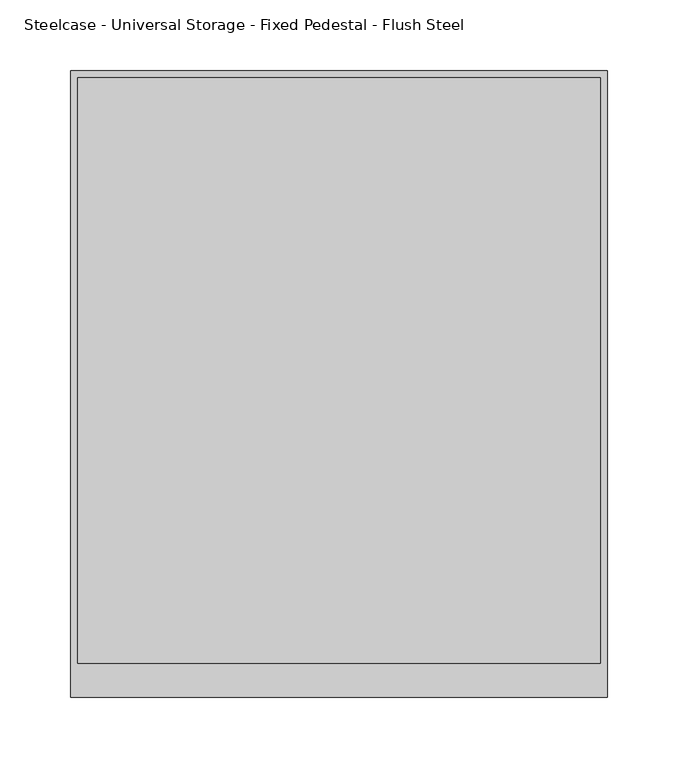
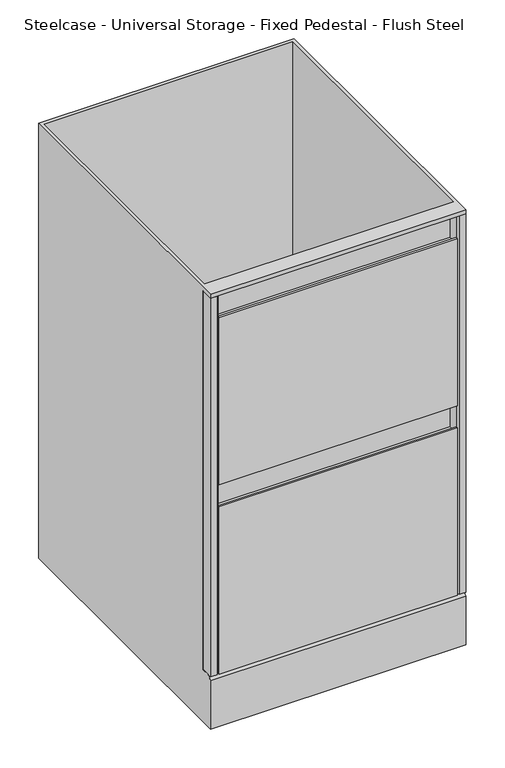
"""IFC4 building model written with IfcOpenShell, lengths in millimetres: furniture geometry, Steelcase - Universal Storage - Fixed Pedestal - Flush Steel : 2 File - 27H x 17 1/2D."""

from ifc_helpers import new_model, si_unit, frame, origin, place, context, project, spatial, polyline, outline, extrude, faceted_brep, source, transform, mapped, element, save


def steelcase_universal_storage_fixed_pedestal_flush_steel_c5fb7b8c(model_context):
    return source(origin(), model_context, "Body", "SolidModel", [
        extrude(outline(polyline([(368.3000121, 0.0), (12.7000004, 0.0), (12.7000004, 3.1750001), (368.3000121, 3.1750001), (368.3000121, 0.0)])), frame((0.0, 0.0, 381.0000363), z_axis=(0.0, 0.0, 1.0), x_axis=(1.0, 0.0, 0.0)), (0.0, 0.0, 1.0), 263.5249394),
        extrude(outline(polyline([(368.3000121, 3.1750001), (12.7000004, 3.1750001), (12.7000004, 19.0495469), (368.3000121, 19.0495469), (368.3000121, 3.1750001)])), frame((0.0, 0.0, 82.550003), z_axis=(0.0, 0.0, 1.0), x_axis=(1.0, 0.0, 0.0)), (0.0, 0.0, 1.0), 254.000003),
        extrude(outline(polyline([(368.3000121, 3.1750001), (12.7000004, 3.1750001), (12.7000004, 19.0495469), (368.3000121, 19.0495469), (368.3000121, 3.1750001)])), frame((0.0, 0.0, 381.0000363), z_axis=(0.0, 0.0, 1.0), x_axis=(1.0, 0.0, 0.0)), (0.0, 0.0, 1.0), 139.8269637),
        extrude(outline(polyline([(368.3000121, 3.1750001), (12.7000004, 3.1750001), (12.7000004, 19.0495469), (368.3000121, 19.0495469), (368.3000121, 3.1750001)])), frame((0.0, 0.0, 530.2250121), z_axis=(0.0, 0.0, 1.0), x_axis=(1.0, 0.0, 0.0)), (0.0, 0.0, 1.0), 104.7749637),
        extrude(outline(polyline([(368.3000121, 0.0), (12.7000004, 0.0), (12.7000004, 3.1750001), (368.3000121, 3.1750001), (368.3000121, 0.0)])), frame((0.0, 0.0, 82.550003), z_axis=(0.0, 0.0, 1.0), x_axis=(1.0, 0.0, 0.0)), (0.0, 0.0, 1.0), 263.5249849),
        faceted_brep([(381.0, 0.0, 679.4500242), (381.0, 19.0495469, 679.4500242), (381.0, 19.0495469, 82.550003), (381.0, 6.350003, 82.550003), (381.0, 0.0, 76.2), (381.0, 0.0, 0.0), (381.0, 444.5, 0.0), (381.0, 444.5, 685.8), (381.0, 0.0, 685.8), (0.0, 0.0, 679.4500242), (0.0, 0.0, 685.8), (0.0, 444.5, 685.8), (0.0, 444.5, 0.0), (0.0, 0.0, 0.0), (0.0, 0.0, 76.2), (0.0, 6.350003, 82.550003), (0.0, 19.0495469, 82.550003), (0.0, 19.0495469, 679.4500242), (5.08, 439.42, 685.8), (375.92, 439.42, 685.8), (375.92, 24.1295469, 685.8), (5.08, 24.1295469, 685.8), (375.92, 439.42, 82.550003), (5.08, 439.42, 82.550003), (5.08, 24.1295469, 82.550003), (375.92, 24.1295469, 82.550003)], [[[0, 1, 2, 3, 4, 5, 6, 7, 8]], [[9, 10, 11, 12, 13, 14, 15, 16, 17]], [[1, 0, 9, 17]], [[2, 1, 17, 16]], [[2, 16, 15, 3]], [[13, 5, 4, 14]], [[6, 5, 13, 12]], [[7, 6, 12, 11]], [[8, 7, 11, 10], [18, 19, 20, 21]], [[0, 8, 10, 9]], [[4, 3, 15, 14]], [[22, 23, 24, 25]], [[23, 22, 19, 18]], [[24, 23, 18, 21]], [[25, 24, 21, 20]], [[22, 25, 20, 19]]]),
        extrude(outline(polyline([(12.7000004, 19.0495469), (12.7000004, 3.1750001), (9.5250003, 0.0), (0.0, 0.0), (0.0, 19.0495469), (12.7000004, 19.0495469)])), frame((0.0, 0.0, 82.550003), z_axis=(0.0, 0.0, 1.0), x_axis=(1.0, 0.0, 0.0)), (0.0, 0.0, 1.0), 596.9000212),
        extrude(outline(polyline([(381.0000125, 19.0495469), (381.0000125, 0.0), (371.4750122, 0.0), (368.3000121, 3.1750001), (368.3000121, 19.0495469), (381.0000125, 19.0495469)])), frame((0.0, 0.0, 82.550003), z_axis=(0.0, 0.0, 1.0), x_axis=(1.0, 0.0, 0.0)), (0.0, 0.0, 1.0), 596.9000212),
    ])


if __name__ == "__main__":
    model = new_model("IFC4")
    model_context = context("Model", 3, world=origin())
    ifc_project = project(units=[si_unit("LENGTHUNIT", "METRE", prefix="MILLI")], contexts=[model_context])
    site = spatial("IfcSite", under=ifc_project)
    building = spatial("IfcBuilding", under=site)
    placement = place(None, origin())
    steelcase_universal_storage_fixed_pedestal_flush_steel_shape = steelcase_universal_storage_fixed_pedestal_flush_steel_c5fb7b8c(model_context)
    element("IfcFurniture", 1, ObjectType="Steelcase - Universal Storage - Fixed Pedestal - Flush Steel : 2 File - 27H x 17 1/2D", at=placement, inside=building, context=model_context, shape_type="MappedRepresentation", body=[
        mapped(steelcase_universal_storage_fixed_pedestal_flush_steel_shape, transform((0.0, 0.0, 0.0), x_axis=(1.0, 0.0, 0.0), y_axis=(0.0, 1.0, 0.0), z_axis=(0.0, 0.0, 1.0))),
    ])
    save(model, "model.ifc")
